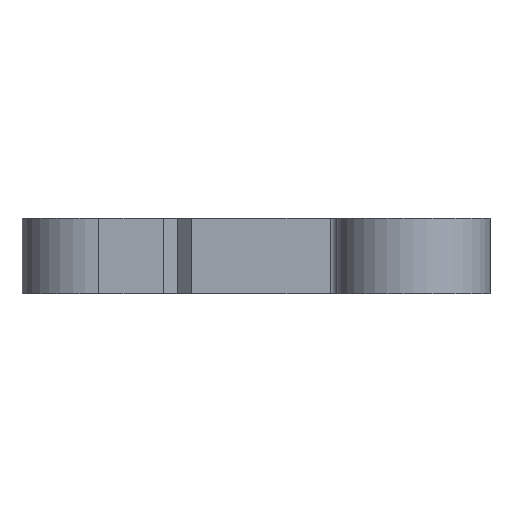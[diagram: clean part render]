
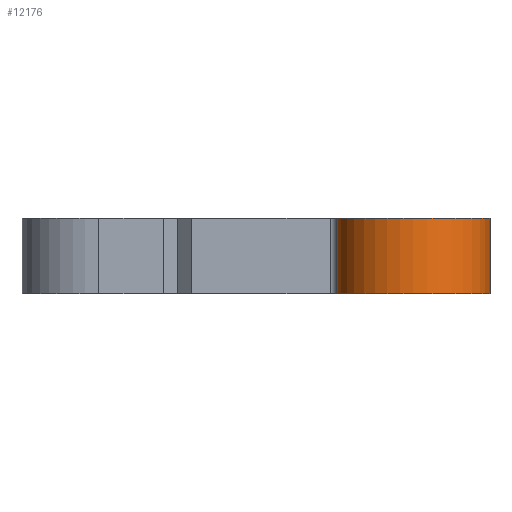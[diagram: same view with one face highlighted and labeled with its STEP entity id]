
A CAD part, front view. The second image highlights one B-rep face of the part: STEP entity #12176.
In plain terms, the highlighted cylindrical face has radius 6.2 mm (diameter 12.4 mm), a partial arc.
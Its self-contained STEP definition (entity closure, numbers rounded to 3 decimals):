
#320 = CIRCLE ( 'NONE', #4610, 6.2 ) ;
#1097 = EDGE_CURVE ( 'NONE', #2028, #7601, #4330, .T. ) ;
#1125 = ORIENTED_EDGE ( 'NONE', *, *, #11124, .F. ) ;
#1182 = EDGE_CURVE ( 'NONE', #10211, #5952, #3940, .T. ) ;
#1660 = CARTESIAN_POINT ( 'NONE',  ( 0., -50.8, -1. ) ) ;
#2028 = VERTEX_POINT ( 'NONE', #2254 ) ;
#2254 = CARTESIAN_POINT ( 'NONE',  ( -6.2, -50.8, -3.05 ) ) ;
#2722 = CARTESIAN_POINT ( 'NONE',  ( 6.2, -50.8, -1. ) ) ;
#2747 = CYLINDRICAL_SURFACE ( 'NONE', #4429, 6.2 ) ;
#2893 = DIRECTION ( 'NONE',  ( 0., 0., 1. ) ) ;
#2949 = ORIENTED_EDGE ( 'NONE', *, *, #1182, .T. ) ;
#3499 = ORIENTED_EDGE ( 'NONE', *, *, #1097, .F. ) ;
#3624 = CARTESIAN_POINT ( 'NONE',  ( -6.2, -50.8, -1. ) ) ;
#3940 = LINE ( 'NONE', #2722, #9022 ) ;
#4097 = VECTOR ( 'NONE', #12341, 1000. ) ;
#4130 = ORIENTED_EDGE ( 'NONE', *, *, #9505, .T. ) ;
#4330 = LINE ( 'NONE', #3624, #4097 ) ;
#4429 = AXIS2_PLACEMENT_3D ( 'NONE', #1660, #4675, #12364 ) ;
#4610 = AXIS2_PLACEMENT_3D ( 'NONE', #11730, #2893, #12639 ) ;
#4675 = DIRECTION ( 'NONE',  ( 0., 0., 1. ) ) ;
#4778 = DIRECTION ( 'NONE',  ( 0., 0., 1. ) ) ;
#5445 = CARTESIAN_POINT ( 'NONE',  ( 0., -50.8, 3.05 ) ) ;
#5952 = VERTEX_POINT ( 'NONE', #11538 ) ;
#6534 = DIRECTION ( 'NONE',  ( 1., 0., 0. ) ) ;
#6735 = CARTESIAN_POINT ( 'NONE',  ( -6.2, -50.8, 3.05 ) ) ;
#7601 = VERTEX_POINT ( 'NONE', #6735 ) ;
#7622 = DIRECTION ( 'NONE',  ( 0., 0., 1. ) ) ;
#8336 = AXIS2_PLACEMENT_3D ( 'NONE', #5445, #7622, #6534 ) ;
#8343 = FACE_OUTER_BOUND ( 'NONE', #11893, .T. ) ;
#9022 = VECTOR ( 'NONE', #4778, 1000. ) ;
#9260 = CARTESIAN_POINT ( 'NONE',  ( 6.2, -50.8, -3.05 ) ) ;
#9505 = EDGE_CURVE ( 'NONE', #2028, #10211, #320, .T. ) ;
#10211 = VERTEX_POINT ( 'NONE', #9260 ) ;
#11124 = EDGE_CURVE ( 'NONE', #7601, #5952, #12632, .T. ) ;
#11538 = CARTESIAN_POINT ( 'NONE',  ( 6.2, -50.8, 3.05 ) ) ;
#11730 = CARTESIAN_POINT ( 'NONE',  ( 0., -50.8, -3.05 ) ) ;
#11893 = EDGE_LOOP ( 'NONE', ( #2949, #1125, #3499, #4130 ) ) ;
#12176 = ADVANCED_FACE ( 'NONE', ( #8343 ), #2747, .T. ) ;
#12341 = DIRECTION ( 'NONE',  ( 0., 0., 1. ) ) ;
#12364 = DIRECTION ( 'NONE',  ( 1., 0., 0. ) ) ;
#12632 = CIRCLE ( 'NONE', #8336, 6.2 ) ;
#12639 = DIRECTION ( 'NONE',  ( 1., 0., 0. ) ) ;
